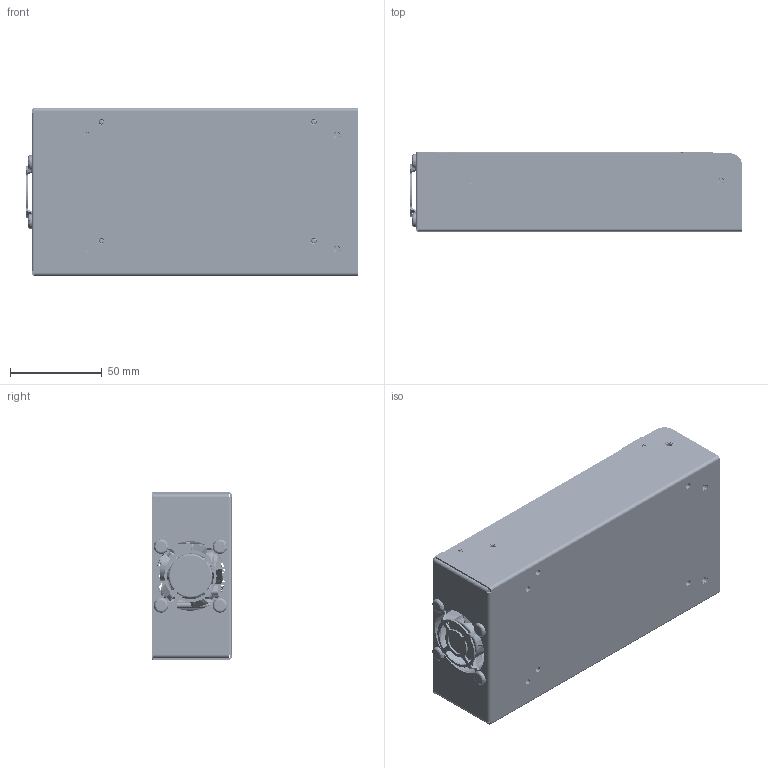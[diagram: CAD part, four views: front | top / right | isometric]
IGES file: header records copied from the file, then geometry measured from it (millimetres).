
Start section: SolidWorks IGES file using analytic representation for surfaces
Global section: file name: C:\Users\ksmith\Desktop\SMP350\SMP350.IGS; native system: SolidWorks 2018; preprocessor: SolidWorks 2018; author: ksmith; date: 180720.153745; units: inch
Bounding box: 180.8 x 43.18 x 91.44 mm (x, y, z)
Surface area: 278937.5 mm2 (no closed solid volume)
Topology: 0 solids, 0 shells, 10125 faces, 88327 edges, 88198 vertices
Faces by surface type: bspline 7233, revolution 2892
